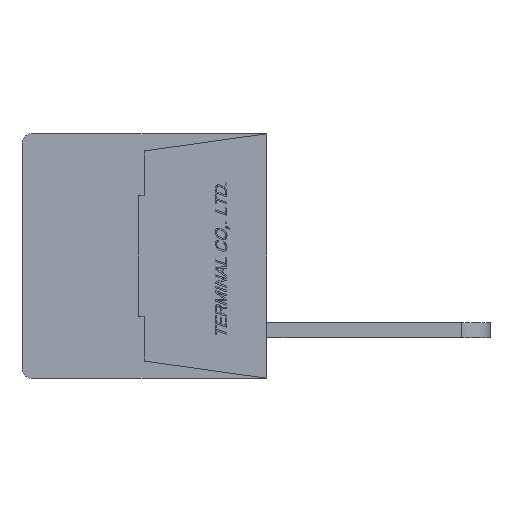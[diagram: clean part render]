
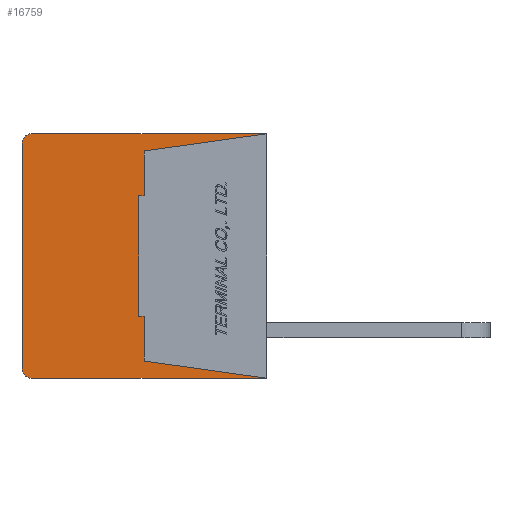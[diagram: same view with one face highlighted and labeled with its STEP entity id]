
A CAD part, left-side view. The second image highlights one B-rep face of the part: STEP entity #16759.
In plain terms, the highlighted planar face has unit normal (-1, 0, 0) as drawn and (1, 0, 0) by its records, which use the part's own axes.
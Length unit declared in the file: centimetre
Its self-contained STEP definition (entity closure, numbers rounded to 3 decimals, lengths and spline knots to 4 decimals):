
#854=CIRCLE('',#28391,0.05);
#855=CIRCLE('',#28392,0.05);
#1447=VERTEX_POINT('',#22964);
#1448=VERTEX_POINT('',#22966);
#1454=VERTEX_POINT('',#22980);
#1456=VERTEX_POINT('',#22986);
#1459=VERTEX_POINT('',#22994);
#1461=VERTEX_POINT('',#23000);
#1467=VERTEX_POINT('',#23014);
#1469=VERTEX_POINT('',#23020);
#1820=VERTEX_POINT('',#24558);
#1821=VERTEX_POINT('',#24560);
#1822=VERTEX_POINT('',#24562);
#1823=VERTEX_POINT('',#24564);
#3201=VECTOR('',#18910,1.);
#3208=VECTOR('',#18918,1.);
#3211=VECTOR('',#18922,1.);
#3214=VECTOR('',#18928,1.);
#3217=VECTOR('',#18932,1.);
#3224=VECTOR('',#18940,1.);
#3227=VECTOR('',#18944,1.);
#3645=VECTOR('',#19513,1.);
#3646=VECTOR('',#19516,1.);
#3647=VECTOR('',#19519,1.);
#5157=LINE('',#22965,#3201);
#5164=LINE('',#22979,#3208);
#5167=LINE('',#22985,#3211);
#5170=LINE('',#22993,#3214);
#5173=LINE('',#22999,#3217);
#5180=LINE('',#23013,#3224);
#5183=LINE('',#23019,#3227);
#5601=LINE('',#24557,#3645);
#5602=LINE('',#24561,#3646);
#5603=LINE('',#24565,#3647);
#7290=EDGE_CURVE('',#1448,#1447,#5157,.T.);
#7297=EDGE_CURVE('',#1454,#1448,#5164,.T.);
#7300=EDGE_CURVE('',#1456,#1454,#5167,.T.);
#7304=EDGE_CURVE('',#1459,#1456,#5170,.T.);
#7307=EDGE_CURVE('',#1461,#1459,#5173,.T.);
#7314=EDGE_CURVE('',#1467,#1461,#5180,.T.);
#7317=EDGE_CURVE('',#1469,#1467,#5183,.T.);
#7843=EDGE_CURVE('',#1447,#1820,#5601,.T.);
#7844=EDGE_CURVE('',#1821,#1820,#854,.T.);
#7845=EDGE_CURVE('',#1821,#1822,#5602,.T.);
#7846=EDGE_CURVE('',#1823,#1822,#855,.T.);
#7847=EDGE_CURVE('',#1823,#1469,#5603,.T.);
#11631=ORIENTED_EDGE('',*,*,#7290,.T.);
#11632=ORIENTED_EDGE('',*,*,#7843,.T.);
#11633=ORIENTED_EDGE('',*,*,#7844,.F.);
#11634=ORIENTED_EDGE('',*,*,#7845,.T.);
#11635=ORIENTED_EDGE('',*,*,#7846,.F.);
#11636=ORIENTED_EDGE('',*,*,#7847,.T.);
#11637=ORIENTED_EDGE('',*,*,#7317,.T.);
#11638=ORIENTED_EDGE('',*,*,#7314,.T.);
#11639=ORIENTED_EDGE('',*,*,#7307,.T.);
#11640=ORIENTED_EDGE('',*,*,#7304,.T.);
#11641=ORIENTED_EDGE('',*,*,#7300,.T.);
#11642=ORIENTED_EDGE('',*,*,#7297,.T.);
#14641=EDGE_LOOP('',(#11631,#11632,#11633,#11634,#11635,#11636,#11637,#11638,
#11639,#11640,#11641,#11642));
#15741=FACE_BOUND('',#14641,.T.);
#16759=ADVANCED_FACE('',(#15741),#17600,.F.);
#17600=PLANE('',#28390);
#18910=DIRECTION('',(0.,-0.99,-0.139));
#18918=DIRECTION('',(0.,0.,-1.));
#18922=DIRECTION('',(0.,-1.,0.));
#18928=DIRECTION('',(0.,0.,-1.));
#18932=DIRECTION('',(0.,1.,0.));
#18940=DIRECTION('',(0.,0.,-1.));
#18944=DIRECTION('',(0.,0.99,-0.139));
#19512=DIRECTION('',(-1.,0.,0.));
#19513=DIRECTION('',(0.,1.,0.));
#19514=DIRECTION('',(-1.,0.,0.));
#19515=DIRECTION('',(0.,0.,0.05));
#19516=DIRECTION('',(0.,0.,1.));
#19517=DIRECTION('',(-1.,0.,0.));
#19518=DIRECTION('',(0.,0.,0.05));
#19519=DIRECTION('',(0.,-1.,0.));
#22964=CARTESIAN_POINT('',(0.,0.,-0.64));
#22965=CARTESIAN_POINT('',(0.,0.64,-0.55));
#22966=CARTESIAN_POINT('',(0.,0.64,-0.55));
#22979=CARTESIAN_POINT('',(0.,0.64,-0.315));
#22980=CARTESIAN_POINT('',(0.,0.64,-0.315));
#22985=CARTESIAN_POINT('',(0.,0.67,-0.315));
#22986=CARTESIAN_POINT('',(0.,0.67,-0.315));
#22993=CARTESIAN_POINT('',(0.,0.67,0.315));
#22994=CARTESIAN_POINT('',(0.,0.67,0.315));
#22999=CARTESIAN_POINT('',(0.,0.64,0.315));
#23000=CARTESIAN_POINT('',(0.,0.64,0.315));
#23013=CARTESIAN_POINT('',(0.,0.64,0.55));
#23014=CARTESIAN_POINT('',(0.,0.64,0.55));
#23019=CARTESIAN_POINT('',(0.,0.,0.64));
#23020=CARTESIAN_POINT('',(0.,0.,0.64));
#24556=CARTESIAN_POINT('',(0.,0.6345,0.));
#24557=CARTESIAN_POINT('',(0.,0.,
-0.64));
#24558=CARTESIAN_POINT('',(0.,1.23,-0.64));
#24559=CARTESIAN_POINT('',(0.,1.23,-0.59));
#24560=CARTESIAN_POINT('',(0.,1.28,-0.59));
#24561=CARTESIAN_POINT('',(0.,1.28,-0.59));
#24562=CARTESIAN_POINT('',(0.,1.28,0.59));
#24563=CARTESIAN_POINT('',(0.,1.23,0.59));
#24564=CARTESIAN_POINT('',(0.,1.23,0.64));
#24565=CARTESIAN_POINT('',(0.,1.23,0.64));
#28390=AXIS2_PLACEMENT_3D('',#24556,#19512,$);
#28391=AXIS2_PLACEMENT_3D('',#24559,#19514,#19515);
#28392=AXIS2_PLACEMENT_3D('',#24563,#19517,#19518);
